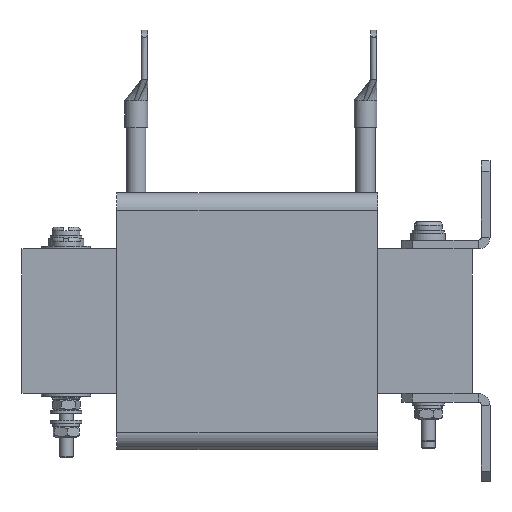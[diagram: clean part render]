
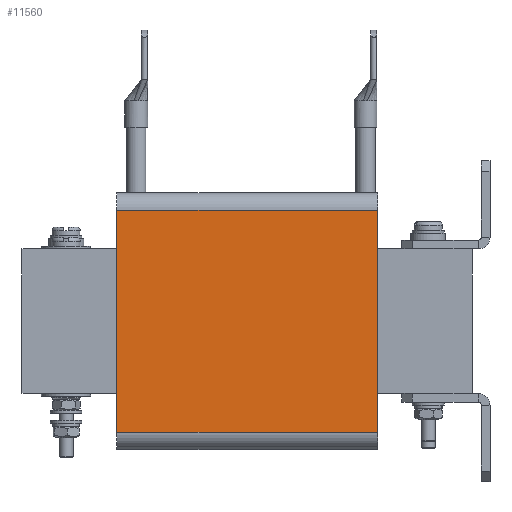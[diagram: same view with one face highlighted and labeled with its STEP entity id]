
A CAD part, left-side view. The second image highlights one B-rep face of the part: STEP entity #11560.
In plain terms, the highlighted planar face has unit normal (-1, 0, 0).
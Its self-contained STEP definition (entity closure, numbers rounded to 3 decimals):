
#988=LINE('',#20290,#1848);
#989=LINE('',#20296,#1849);
#990=LINE('',#20297,#1850);
#991=LINE('',#20298,#1851);
#1848=VECTOR('',#14950,10.);
#1849=VECTOR('',#14957,10.);
#1850=VECTOR('',#14958,10.);
#1851=VECTOR('',#14959,10.);
#3028=FACE_OUTER_BOUND('',#3882,.T.);
#3882=EDGE_LOOP('',(#9541,#9542,#9543,#9544));
#5550=VERTEX_POINT('',#20288);
#5551=VERTEX_POINT('',#20289);
#5552=VERTEX_POINT('',#20294);
#5553=VERTEX_POINT('',#20295);
#6986=EDGE_CURVE('',#5550,#5551,#988,.T.);
#6989=EDGE_CURVE('',#5552,#5553,#989,.T.);
#6990=EDGE_CURVE('',#5550,#5552,#990,.T.);
#6991=EDGE_CURVE('',#5553,#5551,#991,.T.);
#9541=ORIENTED_EDGE('',*,*,#6989,.F.);
#9542=ORIENTED_EDGE('',*,*,#6990,.F.);
#9543=ORIENTED_EDGE('',*,*,#6986,.T.);
#9544=ORIENTED_EDGE('',*,*,#6991,.F.);
#10941=PLANE('',#12539);
#11560=ADVANCED_FACE('',(#3028),#10941,.T.);
#12539=AXIS2_PLACEMENT_3D('',#20293,#14955,#14956);
#14950=DIRECTION('',(0.,-1.,0.));
#14955=DIRECTION('center_axis',(-1.,0.,0.));
#14956=DIRECTION('ref_axis',(0.,0.,1.));
#14957=DIRECTION('',(0.,-1.,0.));
#14958=DIRECTION('',(0.,0.,1.));
#14959=DIRECTION('',(0.,0.,-1.));
#20288=CARTESIAN_POINT('',(-74.5,37.,-31.5));
#20289=CARTESIAN_POINT('',(-74.5,-37.,-31.5));
#20290=CARTESIAN_POINT('',(-74.5,0.,-31.5));
#20293=CARTESIAN_POINT('Origin',(-74.5,0.,-31.5));
#20294=CARTESIAN_POINT('',(-74.5,37.,31.5));
#20295=CARTESIAN_POINT('',(-74.5,-37.,31.5));
#20296=CARTESIAN_POINT('',(-74.5,0.,31.5));
#20297=CARTESIAN_POINT('',(-74.5,37.,31.5));
#20298=CARTESIAN_POINT('',(-74.5,-37.,31.5));
